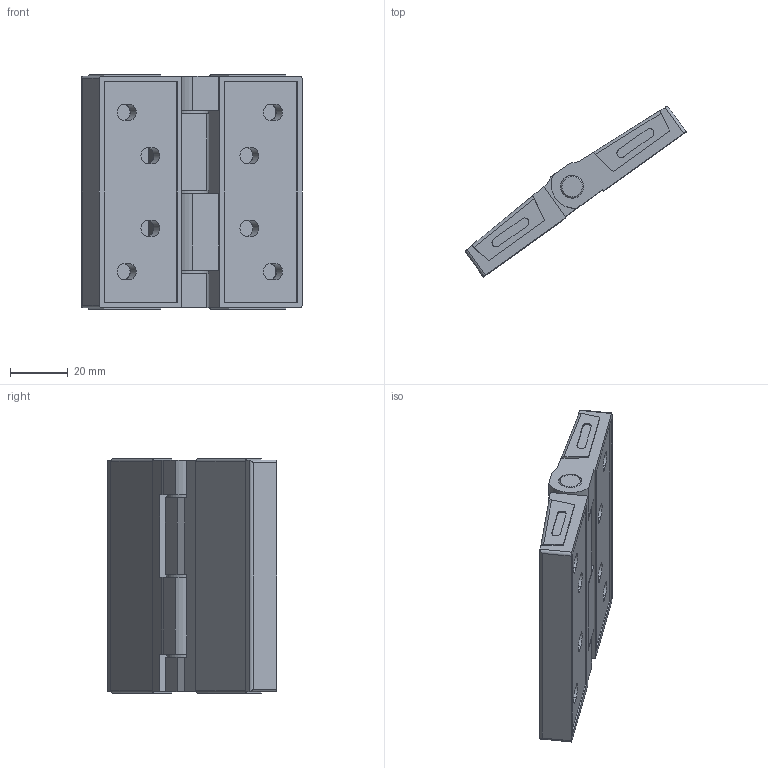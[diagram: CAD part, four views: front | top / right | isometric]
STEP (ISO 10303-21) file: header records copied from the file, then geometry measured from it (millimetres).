
FILE_DESCRIPTION(/* description */ (''),/* implementation_level */ '2;1');
FILE_NAME(/* name */ '\\NAS\db20\H-CV80-86\DR_H-CV80-86.stp',/* time_stamp */ '2017-08-24T11:28:24+09:00',/* author */ ('user'),/* organization */ (''),/* preprocessor_version */ 'ST-DEVELOPER v15.6',/* originating_system */ 'Autodesk Inventor 2015',/* authorisation */ '');
FILE_SCHEMA (('AUTOMOTIVE_DESIGN { 1 0 10303 214 3 1 1 }'));
Length unit declared in the file: millimetre
Products named in the file (5): DR_H-CV80-86-COVER; DR_H-CV80-86-P; DR_H-CV80-86-PIN; DR_H-CV80-86-WASHER; DR_H-CV80-86
Bounding box: 75.99 x 58.63 x 81 mm (x, y, z)
Volume: 51425.1 mm3; surface area: 38560.1 mm2
Topology: 8 solids, 8 shells, 283 faces, 705 edges, 448 vertices
Faces by surface type: plane 164, cylinder 101, torus 16, cone 2
Full cylindrical faces by diameter (mm): 8 x8, 14 x3
Entity records: 4355 total; most frequent: DIRECTION 758, CARTESIAN_POINT 725, ORIENTED_EDGE 692, EDGE_CURVE 346, AXIS2_PLACEMENT_3D 257, LINE 244, VECTOR 244, VERTEX_POINT 224
